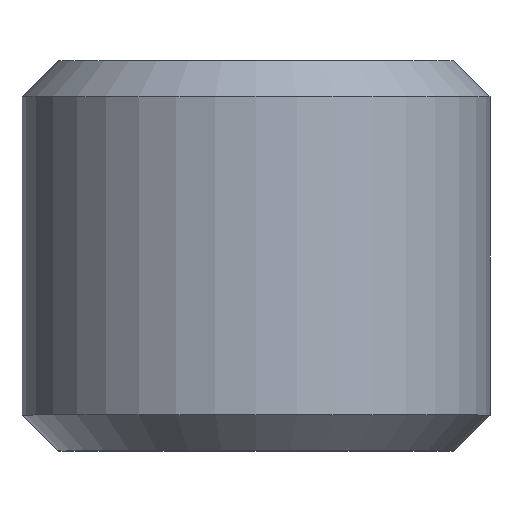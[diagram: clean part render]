
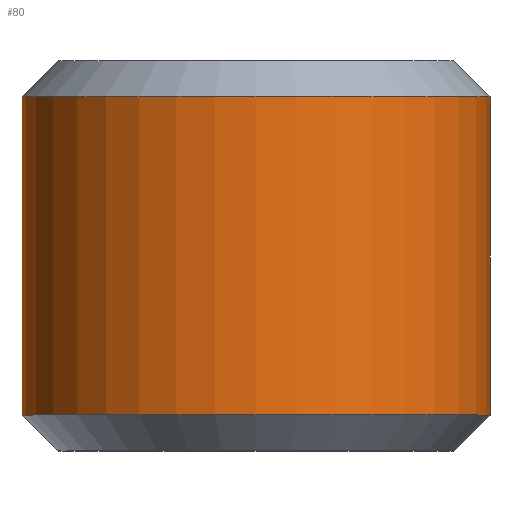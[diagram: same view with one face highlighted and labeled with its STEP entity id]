
A CAD part, top view. The second image highlights one B-rep face of the part: STEP entity #80.
In plain terms, the highlighted cylindrical face has radius 6 mm (diameter 12 mm), a full revolution.
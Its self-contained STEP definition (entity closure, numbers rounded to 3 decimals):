
#80 = ADVANCED_FACE( '', ( #107, #108 ), #109, .T. );
#107 = FACE_OUTER_BOUND( '', #151, .T. );
#108 = FACE_OUTER_BOUND( '', #152, .T. );
#109 = CYLINDRICAL_SURFACE( '', #153, 6. );
#151 = EDGE_LOOP( '', ( #216 ) );
#152 = EDGE_LOOP( '', ( #217 ) );
#153 = AXIS2_PLACEMENT_3D( '', #218, #219, #220 );
#216 = ORIENTED_EDGE( '', *, *, #328, .F. );
#217 = ORIENTED_EDGE( '', *, *, #327, .T. );
#218 = CARTESIAN_POINT( '', ( 0., 0., 0. ) );
#219 = DIRECTION( '', ( 0., 1., 0. ) );
#220 = DIRECTION( '', ( 0., 0., -1. ) );
#327 = EDGE_CURVE( '', #377, #377, #378, .T. );
#328 = EDGE_CURVE( '', #379, #379, #380, .T. );
#377 = VERTEX_POINT( '', #447 );
#378 = CIRCLE( '', #448, 6. );
#379 = VERTEX_POINT( '', #449 );
#380 = CIRCLE( '', #450, 6. );
#447 = CARTESIAN_POINT( '', ( 0., 9.08, -6. ) );
#448 = AXIS2_PLACEMENT_3D( '', #511, #512, #513 );
#449 = CARTESIAN_POINT( '', ( 0., 0.92, -6. ) );
#450 = AXIS2_PLACEMENT_3D( '', #514, #515, #516 );
#511 = CARTESIAN_POINT( '', ( 0., 9.08, 0. ) );
#512 = DIRECTION( '', ( 0., -1., 0. ) );
#513 = DIRECTION( '', ( 0., 0., -1. ) );
#514 = CARTESIAN_POINT( '', ( 0., 0.92, 0. ) );
#515 = DIRECTION( '', ( 0., -1., 0. ) );
#516 = DIRECTION( '', ( 0., 0., -1. ) );
